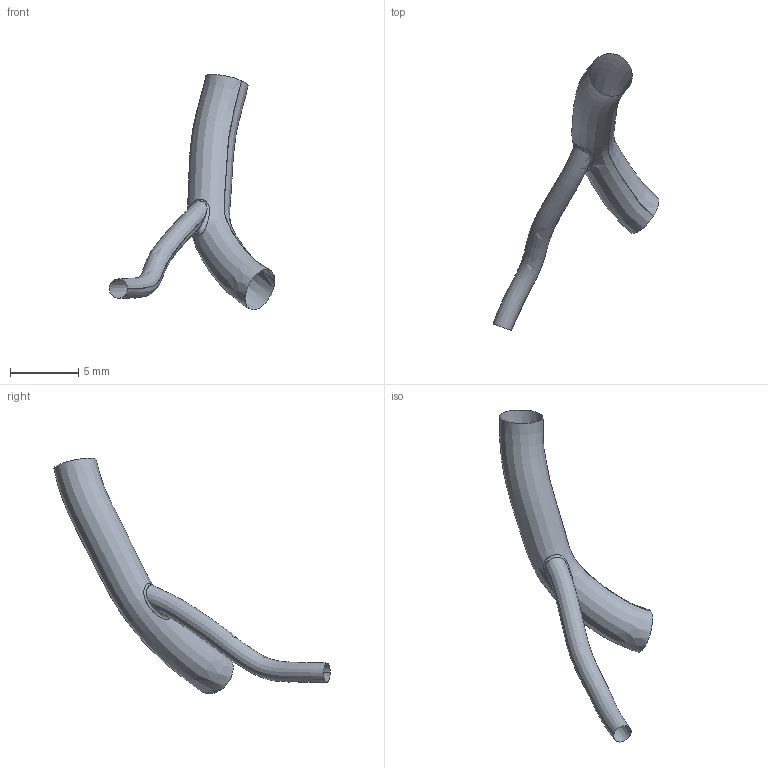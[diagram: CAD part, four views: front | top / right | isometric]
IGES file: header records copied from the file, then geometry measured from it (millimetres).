
Global section: file name: C:\Documents and Settings\Administrator\Desktop\FDA-Pig\Domestic LCA\Pig_000010\diag.ed.igs; native system: Rhinoceros ( May 19 2006 ); preprocessor: Trout Lake IGES 012 May 19 2006; date: 111205.183716; units: centimetre
Bounding box: 12.16 x 20.29 x 17.3 mm (x, y, z)
Surface area: 269 mm2 (no closed solid volume)
Topology: 0 solids, 0 shells, 3 faces, 44 edges, 41 vertices
Faces by surface type: bspline 3
